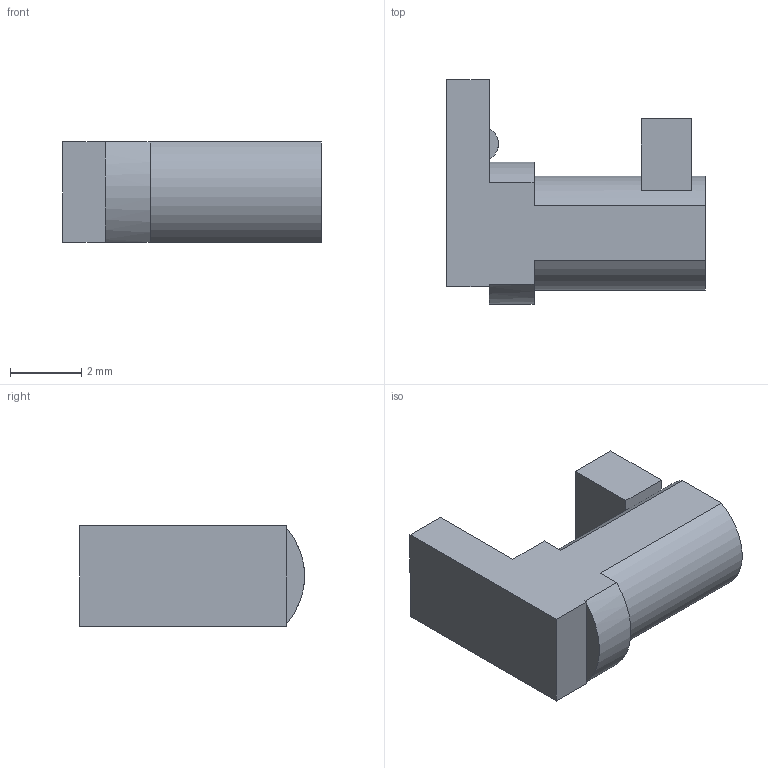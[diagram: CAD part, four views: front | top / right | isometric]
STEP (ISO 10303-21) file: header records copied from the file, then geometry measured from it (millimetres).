
FILE_DESCRIPTION(('Open CASCADE Model'),'2;1');
FILE_NAME('retaining-peg','2026-10-21T18:17:28',('Author'),( 'Open CASCADE'),'Open CASCADE STEP processor 8.0','build123d', 'Unknown');
FILE_SCHEMA(('AUTOMOTIVE_DESIGN { 1 0 10303 214 1 1 1 1 }'));
Length unit declared in the file: millimetre
Products named in the file (2): retaining-peg
Assembly tree (1 placements, depth 2):
  retaining-peg
    retaining-peg
Bounding box: 7.25 x 6.29 x 2.8 mm (x, y, z)
Volume: 76 mm3; surface area: 135.2 mm2
Topology: 1 solids, 1 shells, 26 faces, 64 edges, 42 vertices
Faces by surface type: plane 21, cylinder 5
Entity records: 1614 total; most frequent: CARTESIAN_POINT 292, DIRECTION 242, LINE 146, VECTOR 146, ORIENTED_EDGE 128, PCURVE 128, DEFINITIONAL_REPRESENTATION 128, EDGE_CURVE 64
